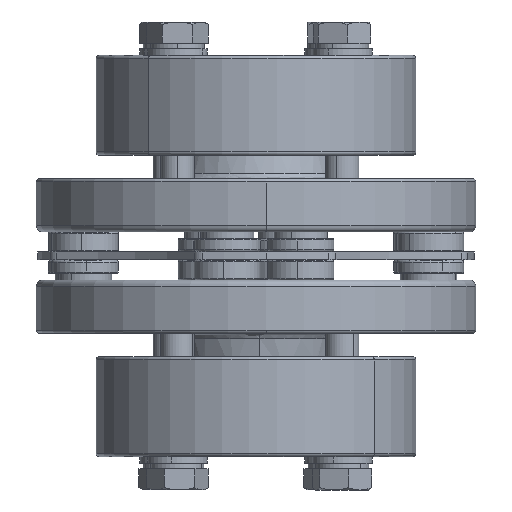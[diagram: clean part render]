
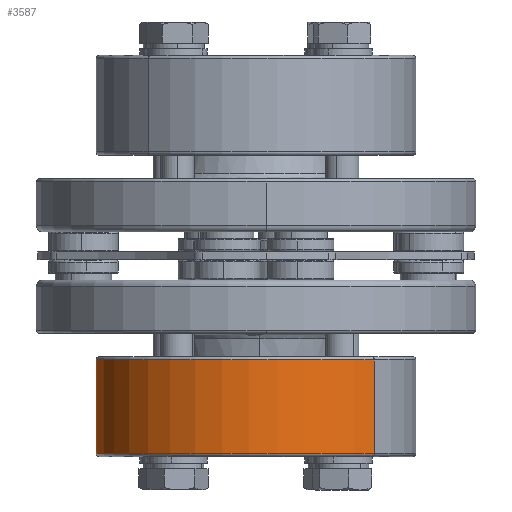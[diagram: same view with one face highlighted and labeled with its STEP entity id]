
A CAD part, front view. The second image highlights one B-rep face of the part: STEP entity #3587.
In plain terms, the highlighted cylindrical face has radius 24 mm (diameter 48 mm), a partial arc.
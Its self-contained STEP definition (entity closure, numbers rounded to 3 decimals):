
#3478 = EDGE_CURVE ( 'NONE', #3646, #3592, #10914, .T. ) ;
#3479 = ORIENTED_EDGE ( 'NONE', *, *, #3480, .F. ) ;
#3480 = EDGE_CURVE ( 'NONE', #3551, #3646, #10908, .T. ) ;
#3548 = VERTEX_POINT ( 'NONE', #11367 ) ;
#3550 = EDGE_CURVE ( 'NONE', #3548, #3551, #11366, .T. ) ;
#3551 = VERTEX_POINT ( 'NONE', #11361 ) ;
#3587 = ADVANCED_FACE ( 'NONE', ( #11518 ), #11584, .T. ) ;
#3588 = EDGE_LOOP ( 'NONE', ( #3589, #3590, #3645, #3479 ) ) ;
#3589 = ORIENTED_EDGE ( 'NONE', *, *, #3550, .F. ) ;
#3590 = ORIENTED_EDGE ( 'NONE', *, *, #3591, .T. ) ;
#3591 = EDGE_CURVE ( 'NONE', #3548, #3592, #11585, .T. ) ;
#3592 = VERTEX_POINT ( 'NONE', #11577 ) ;
#3645 = ORIENTED_EDGE ( 'NONE', *, *, #3478, .F. ) ;
#3646 = VERTEX_POINT ( 'NONE', #11834 ) ;
#10905 = DIRECTION ( 'NONE',  ( 0., 1., 0. ) ) ;
#10906 = VECTOR ( 'NONE', #10905, 1000. ) ;
#10907 = CARTESIAN_POINT ( 'NONE',  ( 0., -14.5, 24. ) ) ;
#10908 = LINE ( 'NONE', #10907, #10906 ) ;
#10910 = DIRECTION ( 'NONE',  ( 0., 0., 1. ) ) ;
#10911 = DIRECTION ( 'NONE',  ( 0., 1., 0. ) ) ;
#10912 = CARTESIAN_POINT ( 'NONE',  ( 0., -0.5, 0. ) ) ;
#10913 = AXIS2_PLACEMENT_3D ( 'NONE', #10912, #10911, #10910 ) ;
#10914 = CIRCLE ( 'NONE', #10913, 24. ) ;
#11361 = CARTESIAN_POINT ( 'NONE',  ( 0., -14.5, 24. ) ) ;
#11362 = DIRECTION ( 'NONE',  ( 0., 0., -1. ) ) ;
#11363 = DIRECTION ( 'NONE',  ( 0., -1., 0. ) ) ;
#11364 = CARTESIAN_POINT ( 'NONE',  ( 0., -14.5, 0. ) ) ;
#11365 = AXIS2_PLACEMENT_3D ( 'NONE', #11364, #11363, #11362 ) ;
#11366 = CIRCLE ( 'NONE', #11365, 24. ) ;
#11367 = CARTESIAN_POINT ( 'NONE',  ( 0., -14.5, -24. ) ) ;
#11518 = FACE_OUTER_BOUND ( 'NONE', #3588, .T. ) ;
#11577 = CARTESIAN_POINT ( 'NONE',  ( 0., -0.5, -24. ) ) ;
#11578 = DIRECTION ( 'NONE',  ( 0., 1., 0. ) ) ;
#11579 = VECTOR ( 'NONE', #11578, 1000. ) ;
#11580 = CARTESIAN_POINT ( 'NONE',  ( 0., -14.5, -24. ) ) ;
#11581 = DIRECTION ( 'NONE',  ( 0., 0., 1. ) ) ;
#11582 = DIRECTION ( 'NONE',  ( 0., 1., 0. ) ) ;
#11583 = AXIS2_PLACEMENT_3D ( 'NONE', #11586, #11582, #11581 ) ;
#11584 = CYLINDRICAL_SURFACE ( 'NONE', #11583, 24. ) ;
#11585 = LINE ( 'NONE', #11580, #11579 ) ;
#11586 = CARTESIAN_POINT ( 'NONE',  ( 0., -14.5, 0. ) ) ;
#11834 = CARTESIAN_POINT ( 'NONE',  ( 0., -0.5, 24. ) ) ;
